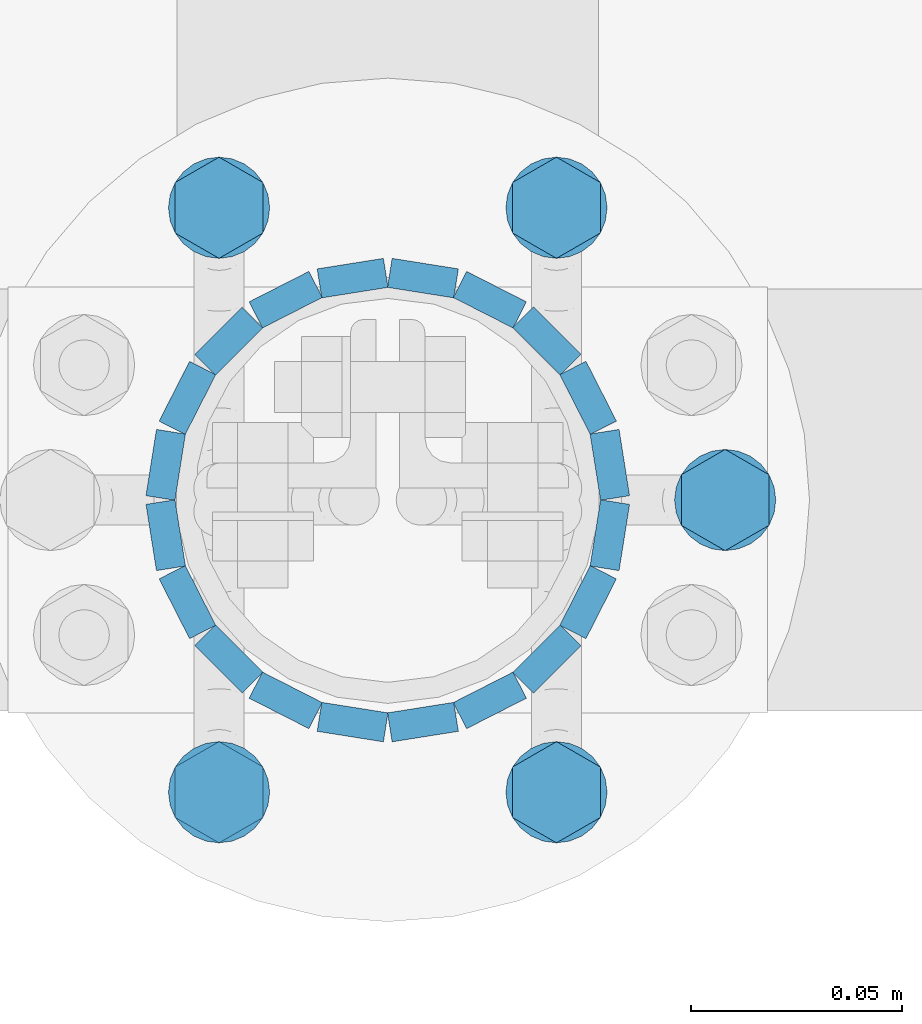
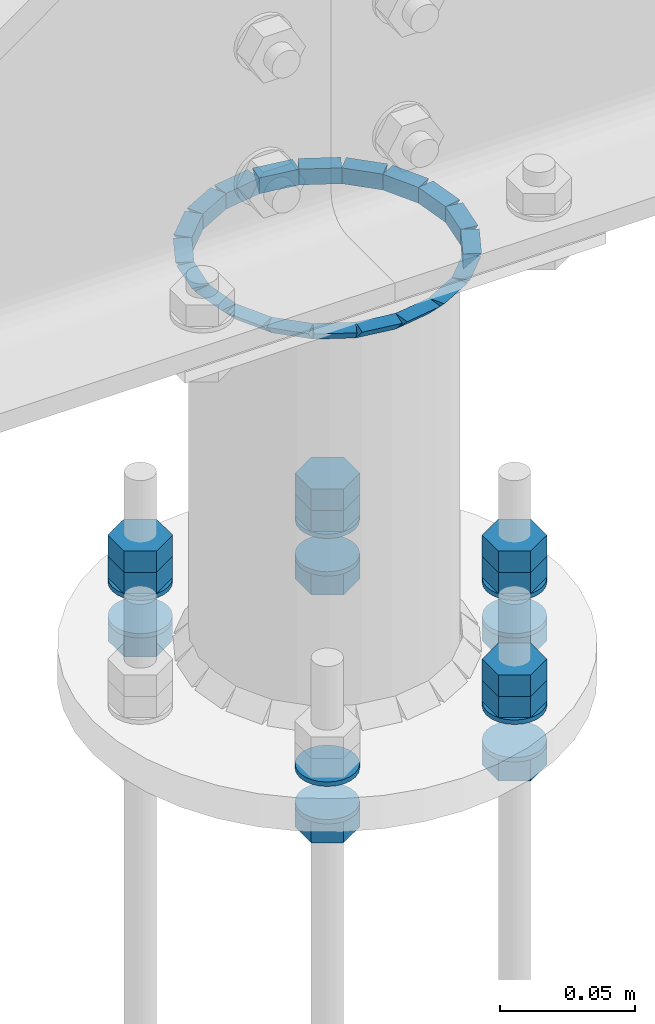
# One storey, part 45 of 84: 27 fasteners, 23 mechanical fasteners.
"""IFC4 building model written with IfcOpenShell, lengths in metres."""

from ifc_helpers import new_model, si_unit, frame, origin_with_axes, place, context, project, spatial, polyline, outline, extrude, type_object, element, save


model = new_model("IFC4")

# Units and contexts
model_context = context("Model", 3, precision=1e-05, world=origin_with_axes())
ifc_project = project(units=[si_unit("LENGTHUNIT", "METRE"), si_unit("AREAUNIT", "SQUARE_METRE"), si_unit("VOLUMEUNIT", "CUBIC_METRE"), si_unit("MASSUNIT", "GRAM", prefix="KILO"), si_unit("TIMEUNIT", "SECOND"), si_unit("PLANEANGLEUNIT", "RADIAN"), si_unit("SOLIDANGLEUNIT", "STERADIAN"), si_unit("THERMODYNAMICTEMPERATUREUNIT", "DEGREE_CELSIUS")], contexts=[model_context])

# Site, building, storey
placement_1 = place(None, origin_with_axes())
site = spatial("IfcSite", under=ifc_project, at=placement_1, Name="Italia", CompositionType="ELEMENT")
building = spatial("IfcBuilding", under=site, at=placement_1, Name="Tettoia", CompositionType="ELEMENT")
storey_placement = place(None, frame((0.0, 0.0, 4.199999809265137), z_axis=(0.0, 0.0, 1.0), x_axis=(1.0, 0.0, 0.0)))
storey = spatial("IfcBuildingStorey", under=building, at=storey_placement, Name="Storey 1", CompositionType="ELEMENT", Elevation=4.199999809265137)

# Mechanical fasteners
mechanical_fastener_type_1 = type_object("IfcMechanicalFastenerType", Name="Collegamento -008_0108", PredefinedType="BOLT")
placement_2 = place(placement_1, origin_with_axes())
mechanical_fastener_1_placement = place(placement_2, origin_with_axes())
element("IfcMechanicalFastener", 1, at=mechanical_fastener_1_placement, inside=storey, type_object=mechanical_fastener_type_1, Name="Collegamento -008_0108", NominalDiameter=0.0119997, context=model_context, shape_type="SweptSolid", body=[
    extrude(outline(polyline([(0.0, 0.0), (-0.0120001, 0.0), (-0.0179996, 0.0103922), (-0.0120001, 0.0207844), (0.0, 0.0207844), (0.00599957, 0.0103922), (0.0, 0.0)])), frame((4.04039, 9.90672, 3.9884), z_axis=(0.0, 0.0, 1.0), x_axis=(0.0, 1.0, 0.0)), (0.0, 0.0, 1.0), 0.00959992),
])
mechanical_fastener_type_2 = type_object("IfcMechanicalFastenerType", Name="Collegamento -008_0108", PredefinedType="BOLT")
mechanical_fastener_2_placement = place(placement_2, origin_with_axes())
element("IfcMechanicalFastener", 2, at=mechanical_fastener_2_placement, inside=storey, type_object=mechanical_fastener_type_2, Name="Collegamento -008_0108", NominalDiameter=0.024, context=model_context, shape_type="SweptSolid", body=[
    extrude(outline(polyline([(0.0, 0.0), (-0.000409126, -0.00310564), (-0.00160789, -0.00600004), (-0.00351524, -0.00848532), (-0.00600052, -0.0103922), (-0.00889397, -0.011591), (-0.0120001, -0.0120001), (-0.0151062, -0.011591), (-0.0179996, -0.0103922), (-0.0204849, -0.00848532), (-0.0223923, -0.00600004), (-0.023591, -0.00310564), (-0.0240002, 0.0), (-0.023591, 0.00310564), (-0.0223923, 0.00600004), (-0.0204849, 0.00848532), (-0.0179996, 0.0103922), (-0.0151062, 0.011591), (-0.0120001, 0.0120001), (-0.00889397, 0.011591), (-0.00600052, 0.0103922), (-0.00351524, 0.00848532), (-0.00160789, 0.00600004), (-0.000409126, 0.00310564), (0.0, 0.0)])), frame((4.03, 9.91272, 4.015), z_axis=(0.0, 0.0, 1.0), x_axis=(0.0, 1.0, 0.0)), (0.0, 0.0, 1.0), 0.00200033),
])
mechanical_fastener_type_3 = type_object("IfcMechanicalFastenerType", Name="Collegamento -008_0108", PredefinedType="BOLT")
mechanical_fastener_3_placement = place(placement_2, origin_with_axes())
element("IfcMechanicalFastener", 3, at=mechanical_fastener_3_placement, inside=storey, type_object=mechanical_fastener_type_3, Name="Collegamento -008_0108", NominalDiameter=0.024, context=model_context, shape_type="SweptSolid", body=[
    extrude(outline(polyline([(0.0, 0.0), (-0.000409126, -0.00310564), (-0.00160789, -0.00600004), (-0.00351524, -0.00848532), (-0.00600052, -0.0103922), (-0.00889397, -0.011591), (-0.0120001, -0.0120001), (-0.0151062, -0.011591), (-0.0179996, -0.0103922), (-0.0204849, -0.00848532), (-0.0223923, -0.00600004), (-0.023591, -0.00310564), (-0.0240002, 0.0), (-0.023591, 0.00310564), (-0.0223923, 0.00600004), (-0.0204849, 0.00848532), (-0.0179996, 0.0103922), (-0.0151062, 0.011591), (-0.0120001, 0.0120001), (-0.00889397, 0.011591), (-0.00600052, 0.0103922), (-0.00351524, 0.00848532), (-0.00160789, 0.00600004), (-0.000409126, 0.00310564), (0.0, 0.0)])), frame((4.03, 9.91272, 3.998), z_axis=(0.0, 0.0, 1.0), x_axis=(0.0, 1.0, 0.0)), (0.0, 0.0, 1.0), 0.00200009),
])
mechanical_fastener_type_4 = type_object("IfcMechanicalFastenerType", Name="Collegamento -008_0108", PredefinedType="BOLT")
mechanical_fastener_4_placement = place(placement_2, origin_with_axes())
element("IfcMechanicalFastener", 4, at=mechanical_fastener_4_placement, inside=storey, type_object=mechanical_fastener_type_4, Name="Collegamento -008_0108", NominalDiameter=0.0119997, context=model_context, shape_type="SweptSolid", body=[
    extrude(outline(polyline([(0.0, 0.0), (-0.0120001, 0.0), (-0.0179996, 0.0103922), (-0.0120001, 0.0207844), (0.0, 0.0207844), (0.00599957, 0.0103922), (0.0, 0.0)])), frame((4.12039, 9.90672, 4.017), z_axis=(0.0, 0.0, 1.0), x_axis=(0.0, 1.0, 0.0)), (0.0, 0.0, 1.0), 0.00959969),
])
mechanical_fastener_type_5 = type_object("IfcMechanicalFastenerType", Name="Collegamento -008_0108", PredefinedType="BOLT")
mechanical_fastener_5_placement = place(placement_2, origin_with_axes())
element("IfcMechanicalFastener", 5, at=mechanical_fastener_5_placement, inside=storey, type_object=mechanical_fastener_type_5, Name="Collegamento -008_0108", NominalDiameter=0.0119997, context=model_context, shape_type="SweptSolid", body=[
    extrude(outline(polyline([(0.0, 0.0), (-0.0120001, 0.0), (-0.0179996, 0.0103922), (-0.0120001, 0.0207844), (0.0, 0.0207844), (0.00599957, 0.0103922), (0.0, 0.0)])), frame((4.12039, 9.90672, 4.0266), z_axis=(0.0, 0.0, 1.0), x_axis=(0.0, 1.0, 0.0)), (0.0, 0.0, 1.0), 0.00960016),
])
mechanical_fastener_type_6 = type_object("IfcMechanicalFastenerType", Name="Collegamento -008_0108", PredefinedType="BOLT")
mechanical_fastener_6_placement = place(placement_2, origin_with_axes())
element("IfcMechanicalFastener", 6, at=mechanical_fastener_6_placement, inside=storey, type_object=mechanical_fastener_type_6, Name="Collegamento -008_0108", NominalDiameter=0.0119997, context=model_context, shape_type="SweptSolid", body=[
    extrude(outline(polyline([(0.0, 0.0), (-0.0120001, 0.0), (-0.0179996, 0.0103922), (-0.0120001, 0.0207844), (0.0, 0.0207844), (0.00599957, 0.0103922), (0.0, 0.0)])), frame((4.12039, 9.90672, 3.9884), z_axis=(0.0, 0.0, 1.0), x_axis=(0.0, 1.0, 0.0)), (0.0, 0.0, 1.0), 0.00959992),
])
mechanical_fastener_type_7 = type_object("IfcMechanicalFastenerType", Name="Collegamento -008_0108", PredefinedType="BOLT")
mechanical_fastener_7_placement = place(placement_2, origin_with_axes())
element("IfcMechanicalFastener", 7, at=mechanical_fastener_7_placement, inside=storey, type_object=mechanical_fastener_type_7, Name="Collegamento -008_0108", NominalDiameter=0.024, context=model_context, shape_type="SweptSolid", body=[
    extrude(outline(polyline([(0.0, 0.0), (-0.000409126, -0.00310564), (-0.00160789, -0.00600004), (-0.00351524, -0.00848532), (-0.00600052, -0.0103922), (-0.00889397, -0.011591), (-0.0120001, -0.0120001), (-0.0151062, -0.011591), (-0.0179996, -0.0103922), (-0.0204849, -0.00848532), (-0.0223923, -0.00600004), (-0.023591, -0.00310564), (-0.0240002, 0.0), (-0.023591, 0.00310564), (-0.0223923, 0.00600004), (-0.0204849, 0.00848532), (-0.0179996, 0.0103922), (-0.0151062, 0.011591), (-0.0120001, 0.0120001), (-0.00889397, 0.011591), (-0.00600052, 0.0103922), (-0.00351524, 0.00848532), (-0.00160789, 0.00600004), (-0.000409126, 0.00310564), (0.0, 0.0)])), frame((4.11, 9.91272, 4.015), z_axis=(0.0, 0.0, 1.0), x_axis=(0.0, 1.0, 0.0)), (0.0, 0.0, 1.0), 0.00200033),
])
mechanical_fastener_type_8 = type_object("IfcMechanicalFastenerType", Name="Collegamento -008_0108", PredefinedType="BOLT")
mechanical_fastener_8_placement = place(placement_2, origin_with_axes())
element("IfcMechanicalFastener", 8, at=mechanical_fastener_8_placement, inside=storey, type_object=mechanical_fastener_type_8, Name="Collegamento -008_0108", NominalDiameter=0.024, context=model_context, shape_type="SweptSolid", body=[
    extrude(outline(polyline([(0.0, 0.0), (-0.000409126, -0.00310564), (-0.00160789, -0.00600004), (-0.00351524, -0.00848532), (-0.00600052, -0.0103922), (-0.00889397, -0.011591), (-0.0120001, -0.0120001), (-0.0151062, -0.011591), (-0.0179996, -0.0103922), (-0.0204849, -0.00848532), (-0.0223923, -0.00600004), (-0.023591, -0.00310564), (-0.0240002, 0.0), (-0.023591, 0.00310564), (-0.0223923, 0.00600004), (-0.0204849, 0.00848532), (-0.0179996, 0.0103922), (-0.0151062, 0.011591), (-0.0120001, 0.0120001), (-0.00889397, 0.011591), (-0.00600052, 0.0103922), (-0.00351524, 0.00848532), (-0.00160789, 0.00600004), (-0.000409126, 0.00310564), (0.0, 0.0)])), frame((4.11, 9.91272, 3.998), z_axis=(0.0, 0.0, 1.0), x_axis=(0.0, 1.0, 0.0)), (0.0, 0.0, 1.0), 0.00200009),
])
mechanical_fastener_type_9 = type_object("IfcMechanicalFastenerType", Name="Collegamento -008_0108", PredefinedType="BOLT")
mechanical_fastener_9_placement = place(placement_2, origin_with_axes())
element("IfcMechanicalFastener", 9, at=mechanical_fastener_9_placement, inside=storey, type_object=mechanical_fastener_type_9, Name="Collegamento -008_0108", NominalDiameter=0.0119991, context=model_context, shape_type="SweptSolid", body=[
    extrude(outline(polyline([(0.0, 0.0), (-0.0119991, 0.0), (-0.0179996, 0.0103922), (-0.0119991, 0.0207844), (0.0, 0.0207844), (0.00600052, 0.0103922), (0.0, 0.0)])), frame((4.16039, 9.976, 4.017), z_axis=(0.0, 0.0, 1.0), x_axis=(0.0, 1.0, 0.0)), (0.0, 0.0, 1.0), 0.00959969),
])
mechanical_fastener_type_10 = type_object("IfcMechanicalFastenerType", Name="Collegamento -008_0108", PredefinedType="BOLT")
mechanical_fastener_10_placement = place(placement_2, origin_with_axes())
element("IfcMechanicalFastener", 10, at=mechanical_fastener_10_placement, inside=storey, type_object=mechanical_fastener_type_10, Name="Collegamento -008_0108", NominalDiameter=0.0119991, context=model_context, shape_type="SweptSolid", body=[
    extrude(outline(polyline([(0.0, 0.0), (-0.0119991, 0.0), (-0.0179996, 0.0103922), (-0.0119991, 0.0207844), (0.0, 0.0207844), (0.00600052, 0.0103922), (0.0, 0.0)])), frame((4.16039, 9.976, 4.0266), z_axis=(0.0, 0.0, 1.0), x_axis=(0.0, 1.0, 0.0)), (0.0, 0.0, 1.0), 0.00960016),
])
mechanical_fastener_type_11 = type_object("IfcMechanicalFastenerType", Name="Collegamento -008_0108", PredefinedType="BOLT")
mechanical_fastener_11_placement = place(placement_2, origin_with_axes())
element("IfcMechanicalFastener", 11, at=mechanical_fastener_11_placement, inside=storey, type_object=mechanical_fastener_type_11, Name="Collegamento -008_0108", NominalDiameter=0.0119991, context=model_context, shape_type="SweptSolid", body=[
    extrude(outline(polyline([(0.0, 0.0), (-0.0119991, 0.0), (-0.0179996, 0.0103922), (-0.0119991, 0.0207844), (0.0, 0.0207844), (0.00600052, 0.0103922), (0.0, 0.0)])), frame((4.16039, 9.976, 3.9884), z_axis=(0.0, 0.0, 1.0), x_axis=(0.0, 1.0, 0.0)), (0.0, 0.0, 1.0), 0.00959992),
])
mechanical_fastener_type_12 = type_object("IfcMechanicalFastenerType", Name="Collegamento -008_0108", PredefinedType="BOLT")
mechanical_fastener_12_placement = place(placement_2, origin_with_axes())
element("IfcMechanicalFastener", 12, at=mechanical_fastener_12_placement, inside=storey, type_object=mechanical_fastener_type_12, Name="Collegamento -008_0108", NominalDiameter=0.024, context=model_context, shape_type="SweptSolid", body=[
    extrude(outline(polyline([(0.0, 0.0), (-0.000409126, -0.00310564), (-0.00160789, -0.00600004), (-0.00351524, -0.00848532), (-0.00600052, -0.0103922), (-0.00889397, -0.011591), (-0.0120001, -0.0120001), (-0.0151062, -0.011591), (-0.0179996, -0.0103922), (-0.0204849, -0.00848532), (-0.0223923, -0.00600004), (-0.023591, -0.00310564), (-0.0240002, 0.0), (-0.023591, 0.00310564), (-0.0223923, 0.00600004), (-0.0204849, 0.00848532), (-0.0179996, 0.0103922), (-0.0151062, 0.011591), (-0.0120001, 0.0120001), (-0.00889397, 0.011591), (-0.00600052, 0.0103922), (-0.00351524, 0.00848532), (-0.00160789, 0.00600004), (-0.000409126, 0.00310564), (0.0, 0.0)])), frame((4.15, 9.982, 4.015), z_axis=(0.0, 0.0, 1.0), x_axis=(0.0, 1.0, 0.0)), (0.0, 0.0, 1.0), 0.00200033),
])
mechanical_fastener_type_13 = type_object("IfcMechanicalFastenerType", Name="Collegamento -008_0108", PredefinedType="BOLT")
mechanical_fastener_13_placement = place(placement_2, origin_with_axes())
element("IfcMechanicalFastener", 13, at=mechanical_fastener_13_placement, inside=storey, type_object=mechanical_fastener_type_13, Name="Collegamento -008_0108", NominalDiameter=0.024, context=model_context, shape_type="SweptSolid", body=[
    extrude(outline(polyline([(0.0, 0.0), (-0.000409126, -0.00310564), (-0.00160789, -0.00600004), (-0.00351524, -0.00848532), (-0.00600052, -0.0103922), (-0.00889397, -0.011591), (-0.0120001, -0.0120001), (-0.0151062, -0.011591), (-0.0179996, -0.0103922), (-0.0204849, -0.00848532), (-0.0223923, -0.00600004), (-0.023591, -0.00310564), (-0.0240002, 0.0), (-0.023591, 0.00310564), (-0.0223923, 0.00600004), (-0.0204849, 0.00848532), (-0.0179996, 0.0103922), (-0.0151062, 0.011591), (-0.0120001, 0.0120001), (-0.00889397, 0.011591), (-0.00600052, 0.0103922), (-0.00351524, 0.00848532), (-0.00160789, 0.00600004), (-0.000409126, 0.00310564), (0.0, 0.0)])), frame((4.15, 9.982, 3.998), z_axis=(0.0, 0.0, 1.0), x_axis=(0.0, 1.0, 0.0)), (0.0, 0.0, 1.0), 0.00200009),
])
mechanical_fastener_type_14 = type_object("IfcMechanicalFastenerType", Name="Collegamento -008_0108", PredefinedType="BOLT")
mechanical_fastener_14_placement = place(placement_2, origin_with_axes())
element("IfcMechanicalFastener", 14, at=mechanical_fastener_14_placement, inside=storey, type_object=mechanical_fastener_type_14, Name="Collegamento -008_0108", NominalDiameter=0.0119997, context=model_context, shape_type="SweptSolid", body=[
    extrude(outline(polyline([(0.0, 0.0), (-0.0120001, 0.0), (-0.0179996, 0.0103922), (-0.0120001, 0.0207844), (0.0, 0.0207844), (0.00599957, 0.0103922), (0.0, 0.0)])), frame((4.12039, 10.0453, 4.017), z_axis=(0.0, 0.0, 1.0), x_axis=(0.0, 1.0, 0.0)), (0.0, 0.0, 1.0), 0.00959969),
])
mechanical_fastener_type_15 = type_object("IfcMechanicalFastenerType", Name="Collegamento -008_0108", PredefinedType="BOLT")
mechanical_fastener_15_placement = place(placement_2, origin_with_axes())
element("IfcMechanicalFastener", 15, at=mechanical_fastener_15_placement, inside=storey, type_object=mechanical_fastener_type_15, Name="Collegamento -008_0108", NominalDiameter=0.0119997, context=model_context, shape_type="SweptSolid", body=[
    extrude(outline(polyline([(0.0, 0.0), (-0.0120001, 0.0), (-0.0179996, 0.0103922), (-0.0120001, 0.0207844), (0.0, 0.0207844), (0.00599957, 0.0103922), (0.0, 0.0)])), frame((4.12039, 10.0453, 4.0266), z_axis=(0.0, 0.0, 1.0), x_axis=(0.0, 1.0, 0.0)), (0.0, 0.0, 1.0), 0.00960016),
])
mechanical_fastener_type_16 = type_object("IfcMechanicalFastenerType", Name="Collegamento -008_0108", PredefinedType="BOLT")
mechanical_fastener_16_placement = place(placement_2, origin_with_axes())
element("IfcMechanicalFastener", 16, at=mechanical_fastener_16_placement, inside=storey, type_object=mechanical_fastener_type_16, Name="Collegamento -008_0108", NominalDiameter=0.0119997, context=model_context, shape_type="SweptSolid", body=[
    extrude(outline(polyline([(0.0, 0.0), (-0.0120001, 0.0), (-0.0179996, 0.0103922), (-0.0120001, 0.0207844), (0.0, 0.0207844), (0.00599957, 0.0103922), (0.0, 0.0)])), frame((4.12039, 10.0453, 3.9884), z_axis=(0.0, 0.0, 1.0), x_axis=(0.0, 1.0, 0.0)), (0.0, 0.0, 1.0), 0.00959992),
])
mechanical_fastener_type_17 = type_object("IfcMechanicalFastenerType", Name="Collegamento -008_0108", PredefinedType="BOLT")
mechanical_fastener_17_placement = place(placement_2, origin_with_axes())
element("IfcMechanicalFastener", 17, at=mechanical_fastener_17_placement, inside=storey, type_object=mechanical_fastener_type_17, Name="Collegamento -008_0108", NominalDiameter=0.024, context=model_context, shape_type="SweptSolid", body=[
    extrude(outline(polyline([(0.0, 0.0), (-0.000409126, -0.00310564), (-0.00160789, -0.00600004), (-0.00351524, -0.00848532), (-0.00600052, -0.0103922), (-0.00889397, -0.011591), (-0.0120001, -0.0120001), (-0.0151062, -0.011591), (-0.0179996, -0.0103922), (-0.0204849, -0.00848532), (-0.0223923, -0.00600004), (-0.023591, -0.00310564), (-0.0240002, 0.0), (-0.023591, 0.00310564), (-0.0223923, 0.00600004), (-0.0204849, 0.00848532), (-0.0179996, 0.0103922), (-0.0151062, 0.011591), (-0.0120001, 0.0120001), (-0.00889397, 0.011591), (-0.00600052, 0.0103922), (-0.00351524, 0.00848532), (-0.00160789, 0.00600004), (-0.000409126, 0.00310564), (0.0, 0.0)])), frame((4.11, 10.0513, 4.015), z_axis=(0.0, 0.0, 1.0), x_axis=(0.0, 1.0, 0.0)), (0.0, 0.0, 1.0), 0.00200033),
])
mechanical_fastener_type_18 = type_object("IfcMechanicalFastenerType", Name="Collegamento -008_0108", PredefinedType="BOLT")
mechanical_fastener_18_placement = place(placement_2, origin_with_axes())
element("IfcMechanicalFastener", 18, at=mechanical_fastener_18_placement, inside=storey, type_object=mechanical_fastener_type_18, Name="Collegamento -008_0108", NominalDiameter=0.024, context=model_context, shape_type="SweptSolid", body=[
    extrude(outline(polyline([(0.0, 0.0), (-0.000409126, -0.00310564), (-0.00160789, -0.00600004), (-0.00351524, -0.00848532), (-0.00600052, -0.0103922), (-0.00889397, -0.011591), (-0.0120001, -0.0120001), (-0.0151062, -0.011591), (-0.0179996, -0.0103922), (-0.0204849, -0.00848532), (-0.0223923, -0.00600004), (-0.023591, -0.00310564), (-0.0240002, 0.0), (-0.023591, 0.00310564), (-0.0223923, 0.00600004), (-0.0204849, 0.00848532), (-0.0179996, 0.0103922), (-0.0151062, 0.011591), (-0.0120001, 0.0120001), (-0.00889397, 0.011591), (-0.00600052, 0.0103922), (-0.00351524, 0.00848532), (-0.00160789, 0.00600004), (-0.000409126, 0.00310564), (0.0, 0.0)])), frame((4.11, 10.0513, 3.998), z_axis=(0.0, 0.0, 1.0), x_axis=(0.0, 1.0, 0.0)), (0.0, 0.0, 1.0), 0.00200009),
])
mechanical_fastener_type_19 = type_object("IfcMechanicalFastenerType", Name="Collegamento -008_0108", PredefinedType="BOLT")
mechanical_fastener_19_placement = place(placement_2, origin_with_axes())
element("IfcMechanicalFastener", 19, at=mechanical_fastener_19_placement, inside=storey, type_object=mechanical_fastener_type_19, Name="Collegamento -008_0108", NominalDiameter=0.0119997, context=model_context, shape_type="SweptSolid", body=[
    extrude(outline(polyline([(0.0, 0.0), (-0.0120001, 0.0), (-0.0179996, 0.0103922), (-0.0120001, 0.0207844), (0.0, 0.0207844), (0.00599957, 0.0103922), (0.0, 0.0)])), frame((4.04039, 10.0453, 4.017), z_axis=(0.0, 0.0, 1.0), x_axis=(0.0, 1.0, 0.0)), (0.0, 0.0, 1.0), 0.00959969),
])
mechanical_fastener_type_20 = type_object("IfcMechanicalFastenerType", Name="Collegamento -008_0108", PredefinedType="BOLT")
mechanical_fastener_20_placement = place(placement_2, origin_with_axes())
element("IfcMechanicalFastener", 20, at=mechanical_fastener_20_placement, inside=storey, type_object=mechanical_fastener_type_20, Name="Collegamento -008_0108", NominalDiameter=0.0119997, context=model_context, shape_type="SweptSolid", body=[
    extrude(outline(polyline([(0.0, 0.0), (-0.0120001, 0.0), (-0.0179996, 0.0103922), (-0.0120001, 0.0207844), (0.0, 0.0207844), (0.00599957, 0.0103922), (0.0, 0.0)])), frame((4.04039, 10.0453, 4.0266), z_axis=(0.0, 0.0, 1.0), x_axis=(0.0, 1.0, 0.0)), (0.0, 0.0, 1.0), 0.00960016),
])
mechanical_fastener_type_21 = type_object("IfcMechanicalFastenerType", Name="Collegamento -008_0108", PredefinedType="BOLT")
mechanical_fastener_21_placement = place(placement_2, origin_with_axes())
element("IfcMechanicalFastener", 21, at=mechanical_fastener_21_placement, inside=storey, type_object=mechanical_fastener_type_21, Name="Collegamento -008_0108", NominalDiameter=0.0119997, context=model_context, shape_type="SweptSolid", body=[
    extrude(outline(polyline([(0.0, 0.0), (-0.0120001, 0.0), (-0.0179996, 0.0103922), (-0.0120001, 0.0207844), (0.0, 0.0207844), (0.00599957, 0.0103922), (0.0, 0.0)])), frame((4.04039, 10.0453, 3.9884), z_axis=(0.0, 0.0, 1.0), x_axis=(0.0, 1.0, 0.0)), (0.0, 0.0, 1.0), 0.00959992),
])
mechanical_fastener_type_22 = type_object("IfcMechanicalFastenerType", Name="Collegamento -008_0108", PredefinedType="BOLT")
mechanical_fastener_22_placement = place(placement_2, origin_with_axes())
element("IfcMechanicalFastener", 22, at=mechanical_fastener_22_placement, inside=storey, type_object=mechanical_fastener_type_22, Name="Collegamento -008_0108", NominalDiameter=0.024, context=model_context, shape_type="SweptSolid", body=[
    extrude(outline(polyline([(0.0, 0.0), (-0.000409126, -0.00310564), (-0.00160789, -0.00600004), (-0.00351524, -0.00848532), (-0.00600052, -0.0103922), (-0.00889397, -0.011591), (-0.0120001, -0.0120001), (-0.0151062, -0.011591), (-0.0179996, -0.0103922), (-0.0204849, -0.00848532), (-0.0223923, -0.00600004), (-0.023591, -0.00310564), (-0.0240002, 0.0), (-0.023591, 0.00310564), (-0.0223923, 0.00600004), (-0.0204849, 0.00848532), (-0.0179996, 0.0103922), (-0.0151062, 0.011591), (-0.0120001, 0.0120001), (-0.00889397, 0.011591), (-0.00600052, 0.0103922), (-0.00351524, 0.00848532), (-0.00160789, 0.00600004), (-0.000409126, 0.00310564), (0.0, 0.0)])), frame((4.03, 10.0513, 4.015), z_axis=(0.0, 0.0, 1.0), x_axis=(0.0, 1.0, 0.0)), (0.0, 0.0, 1.0), 0.00200033),
])
mechanical_fastener_type_23 = type_object("IfcMechanicalFastenerType", Name="Collegamento -008_0108", PredefinedType="BOLT")
mechanical_fastener_23_placement = place(placement_2, origin_with_axes())
element("IfcMechanicalFastener", 23, at=mechanical_fastener_23_placement, inside=storey, type_object=mechanical_fastener_type_23, Name="Collegamento -008_0108", NominalDiameter=0.024, context=model_context, shape_type="SweptSolid", body=[
    extrude(outline(polyline([(0.0, 0.0), (-0.000409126, -0.00310564), (-0.00160789, -0.00600004), (-0.00351524, -0.00848532), (-0.00600052, -0.0103922), (-0.00889397, -0.011591), (-0.0120001, -0.0120001), (-0.0151062, -0.011591), (-0.0179996, -0.0103922), (-0.0204849, -0.00848532), (-0.0223923, -0.00600004), (-0.023591, -0.00310564), (-0.0240002, 0.0), (-0.023591, 0.00310564), (-0.0223923, 0.00600004), (-0.0204849, 0.00848532), (-0.0179996, 0.0103922), (-0.0151062, 0.011591), (-0.0120001, 0.0120001), (-0.00889397, 0.011591), (-0.00600052, 0.0103922), (-0.00351524, 0.00848532), (-0.00160789, 0.00600004), (-0.000409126, 0.00310564), (0.0, 0.0)])), frame((4.03, 10.0513, 3.998), z_axis=(0.0, 0.0, 1.0), x_axis=(0.0, 1.0, 0.0)), (0.0, 0.0, 1.0), 0.00200009),
])

# Fasteners
fastener_type_1 = type_object("IfcFastenerType", Name="Collegamento 0108_-008", PredefinedType="WELD")
fastener_1_placement = place(placement_2, origin_with_axes())
element("IfcFastener", 24, at=fastener_1_placement, inside=storey, type_object=fastener_type_1, Name="Collegamento 0108_-008", context=model_context, shape_type="SweptSolid", body=[
    extrude(outline(polyline([(0.0, 0.0), (-0.00695896, -0.00717354), (-0.00695896, 0.0), (0.0, 0.0)])), frame((4.07103, 10.0273, 4.19505), z_axis=(0.987680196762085, -0.1564861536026, 0.0), x_axis=(0.156486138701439, 0.98768013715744, 0.0)), (0.0, 0.0, 1.0), 0.0159),
])
fastener_type_2 = type_object("IfcFastenerType", Name="Collegamento 0108_-008", PredefinedType="WELD")
fastener_2_placement = place(placement_2, origin_with_axes())
element("IfcFastener", 25, at=fastener_2_placement, inside=storey, type_object=fastener_type_2, Name="Collegamento 0108_-008", context=model_context, shape_type="SweptSolid", body=[
    extrude(outline(polyline([(0.0, 0.0), (-0.00695896, -0.00717354), (-0.00695896, 0.0), (0.0, 0.0)])), frame((4.0887, 10.0242, 4.19505), z_axis=(0.891006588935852, -0.453990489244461, 0.0), x_axis=(0.453990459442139, 0.891006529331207, 0.0)), (0.0, 0.0, 1.0), 0.0158998),
])
fastener_type_3 = type_object("IfcFastenerType", Name="Collegamento 0108_-008", PredefinedType="WELD")
fastener_3_placement = place(placement_2, origin_with_axes())
element("IfcFastener", 26, at=fastener_3_placement, inside=storey, type_object=fastener_type_3, Name="Collegamento 0108_-008", context=model_context, shape_type="SweptSolid", body=[
    extrude(outline(polyline([(0.0, 0.0), (-0.00695801, -0.00717354), (-0.00695801, 0.0), (0.0, 0.0)])), frame((4.10453, 10.0158, 4.19505), z_axis=(0.70710676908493, -0.70710676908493, 0.0), x_axis=(0.70710676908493, 0.70710676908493, 0.0)), (0.0, 0.0, 1.0), 0.0158998),
])
fastener_type_4 = type_object("IfcFastenerType", Name="Collegamento 0108_-008", PredefinedType="WELD")
fastener_4_placement = place(placement_2, origin_with_axes())
element("IfcFastener", 27, at=fastener_4_placement, inside=storey, type_object=fastener_type_4, Name="Collegamento 0108_-008", context=model_context, shape_type="SweptSolid", body=[
    extrude(outline(polyline([(0.0, 0.0), (-0.00695801, -0.00717354), (-0.00695801, 0.0), (0.0, 0.0)])), frame((4.11699, 10.0029, 4.19505), z_axis=(0.453990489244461, -0.891006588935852, 0.0), x_axis=(0.891006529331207, 0.453990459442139, 0.0)), (0.0, 0.0, 1.0), 0.0158998),
])
fastener_type_5 = type_object("IfcFastenerType", Name="Collegamento 0108_-008", PredefinedType="WELD")
fastener_5_placement = place(placement_2, origin_with_axes())
element("IfcFastener", 28, at=fastener_5_placement, inside=storey, type_object=fastener_type_5, Name="Collegamento 0108_-008", context=model_context, shape_type="SweptSolid", body=[
    extrude(outline(polyline([(0.0, 0.0), (-0.00695896, -0.00717354), (-0.00695896, 0.0), (0.0, 0.0)])), frame((4.12484, 9.98674, 4.19505), z_axis=(0.156398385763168, -0.987694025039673, 0.0), x_axis=(0.987694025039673, 0.156398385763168, 0.0)), (0.0, 0.0, 1.0), 0.0158998),
])
fastener_type_6 = type_object("IfcFastenerType", Name="Collegamento 0108_-008", PredefinedType="WELD")
fastener_6_placement = place(placement_2, origin_with_axes())
element("IfcFastener", 29, at=fastener_6_placement, inside=storey, type_object=fastener_type_6, Name="Collegamento 0108_-008", context=model_context, shape_type="SweptSolid", body=[
    extrude(outline(polyline([(0.0, 0.0), (-0.00695729, -0.00717354), (-0.00695729, 0.0), (0.0, 0.0)])), frame((4.12733, 9.96897, 4.19505), z_axis=(-0.156398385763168, -0.987694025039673, 0.0), x_axis=(0.987694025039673, -0.156398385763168, 0.0)), (0.0, 0.0, 1.0), 0.0158998),
])
fastener_type_7 = type_object("IfcFastenerType", Name="Collegamento 0108_-008", PredefinedType="WELD")
fastener_7_placement = place(placement_2, origin_with_axes())
element("IfcFastener", 30, at=fastener_7_placement, inside=storey, type_object=fastener_type_7, Name="Collegamento 0108_-008", context=model_context, shape_type="SweptSolid", body=[
    extrude(outline(polyline([(0.0, 0.0), (-0.00695848, -0.00717354), (-0.00695848, 0.0), (0.0, 0.0)])), frame((4.12421, 9.9513, 4.19505), z_axis=(-0.453990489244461, -0.891006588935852, 0.0), x_axis=(0.891006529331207, -0.453990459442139, 0.0)), (0.0, 0.0, 1.0), 0.0158998),
])
fastener_type_8 = type_object("IfcFastenerType", Name="Collegamento 0108_-008", PredefinedType="WELD")
fastener_8_placement = place(placement_2, origin_with_axes())
element("IfcFastener", 31, at=fastener_8_placement, inside=storey, type_object=fastener_type_8, Name="Collegamento 0108_-008", context=model_context, shape_type="SweptSolid", body=[
    extrude(outline(polyline([(0.0, 0.0), (-0.00695801, -0.00717354), (-0.00695801, 0.0), (0.0, 0.0)])), frame((4.11578, 9.93547, 4.19505), z_axis=(-0.70710676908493, -0.70710676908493, 0.0), x_axis=(0.70710676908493, -0.70710676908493, 0.0)), (0.0, 0.0, 1.0), 0.0158998),
])
fastener_type_9 = type_object("IfcFastenerType", Name="Collegamento 0108_-008", PredefinedType="WELD")
fastener_9_placement = place(placement_2, origin_with_axes())
element("IfcFastener", 32, at=fastener_9_placement, inside=storey, type_object=fastener_type_9, Name="Collegamento 0108_-008", context=model_context, shape_type="SweptSolid", body=[
    extrude(outline(polyline([(0.0, 0.0), (-0.00695801, -0.00717354), (-0.00695801, 0.0), (0.0, 0.0)])), frame((4.10286, 9.92301, 4.19505), z_axis=(-0.891006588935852, -0.453990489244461, 0.0), x_axis=(0.453990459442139, -0.891006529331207, 0.0)), (0.0, 0.0, 1.0), 0.0158998),
])
fastener_type_10 = type_object("IfcFastenerType", Name="Collegamento 0108_-008", PredefinedType="WELD")
fastener_10_placement = place(placement_2, origin_with_axes())
element("IfcFastener", 33, at=fastener_10_placement, inside=storey, type_object=fastener_type_10, Name="Collegamento 0108_-008", context=model_context, shape_type="SweptSolid", body=[
    extrude(outline(polyline([(0.0, 0.0), (-0.00695801, -0.00717354), (-0.00695801, 0.0), (0.0, 0.0)])), frame((4.08674, 9.91516, 4.19505), z_axis=(-0.987680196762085, -0.1564861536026, 0.0), x_axis=(0.156486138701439, -0.98768013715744, 0.0)), (0.0, 0.0, 1.0), 0.0159),
])
fastener_type_11 = type_object("IfcFastenerType", Name="Collegamento 0108_-008", PredefinedType="WELD")
fastener_11_placement = place(placement_2, origin_with_axes())
element("IfcFastener", 34, at=fastener_11_placement, inside=storey, type_object=fastener_type_11, Name="Collegamento 0108_-008", context=model_context, shape_type="SweptSolid", body=[
    extrude(outline(polyline([(0.0, 0.0), (-0.00695896, -0.00717354), (-0.00695896, 0.0), (0.0, 0.0)])), frame((4.06897, 9.91267, 4.19505), z_axis=(-0.987680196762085, 0.1564861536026, 0.0), x_axis=(-0.156486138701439, -0.98768013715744, 0.0)), (0.0, 0.0, 1.0), 0.0159),
])
fastener_type_12 = type_object("IfcFastenerType", Name="Collegamento 0108_-008", PredefinedType="WELD")
fastener_12_placement = place(placement_2, origin_with_axes())
element("IfcFastener", 35, at=fastener_12_placement, inside=storey, type_object=fastener_type_12, Name="Collegamento 0108_-008", context=model_context, shape_type="SweptSolid", body=[
    extrude(outline(polyline([(0.0, 0.0), (-0.00695705, -0.00717354), (-0.00695705, 0.0), (0.0, 0.0)])), frame((4.0513, 9.91579, 4.19505), z_axis=(-0.891006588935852, 0.453990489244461, 0.0), x_axis=(-0.453990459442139, -0.891006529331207, 0.0)), (0.0, 0.0, 1.0), 0.0158998),
])
fastener_type_13 = type_object("IfcFastenerType", Name="Collegamento 0108_-008", PredefinedType="WELD")
fastener_13_placement = place(placement_2, origin_with_axes())
element("IfcFastener", 36, at=fastener_13_placement, inside=storey, type_object=fastener_type_13, Name="Collegamento 0108_-008", context=model_context, shape_type="SweptSolid", body=[
    extrude(outline(polyline([(0.0, 0.0), (-0.00695801, -0.00717354), (-0.00695801, 0.0), (0.0, 0.0)])), frame((4.03547, 9.92422, 4.19505), z_axis=(-0.70710676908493, 0.70710676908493, 0.0), x_axis=(-0.70710676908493, -0.70710676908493, 0.0)), (0.0, 0.0, 1.0), 0.0158998),
])
fastener_type_14 = type_object("IfcFastenerType", Name="Collegamento 0108_-008", PredefinedType="WELD")
fastener_14_placement = place(placement_2, origin_with_axes())
element("IfcFastener", 37, at=fastener_14_placement, inside=storey, type_object=fastener_type_14, Name="Collegamento 0108_-008", context=model_context, shape_type="SweptSolid", body=[
    extrude(outline(polyline([(0.0, 0.0), (-0.00695801, -0.00717354), (-0.00695801, 0.0), (0.0, 0.0)])), frame((4.02301, 9.93714, 4.19505), z_axis=(-0.453990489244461, 0.891006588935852, 0.0), x_axis=(-0.891006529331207, -0.453990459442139, 0.0)), (0.0, 0.0, 1.0), 0.0158998),
])
fastener_type_15 = type_object("IfcFastenerType", Name="Collegamento 0108_-008", PredefinedType="WELD")
fastener_15_placement = place(placement_2, origin_with_axes())
element("IfcFastener", 38, at=fastener_15_placement, inside=storey, type_object=fastener_type_15, Name="Collegamento 0108_-008", context=model_context, shape_type="SweptSolid", body=[
    extrude(outline(polyline([(0.0, 0.0), (-0.00695801, -0.00717354), (-0.00695801, 0.0), (0.0, 0.0)])), frame((4.01516, 9.95327, 4.19505), z_axis=(-0.156398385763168, 0.987694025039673, 0.0), x_axis=(-0.987694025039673, -0.156398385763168, 0.0)), (0.0, 0.0, 1.0), 0.0158998),
])
fastener_type_16 = type_object("IfcFastenerType", Name="Collegamento 0108_-008", PredefinedType="WELD")
fastener_16_placement = place(placement_2, origin_with_axes())
element("IfcFastener", 39, at=fastener_16_placement, inside=storey, type_object=fastener_type_16, Name="Collegamento 0108_-008", context=model_context, shape_type="SweptSolid", body=[
    extrude(outline(polyline([(0.0, 0.0), (-0.00695753, -0.00717354), (-0.00695753, 0.0), (0.0, 0.0)])), frame((4.01267, 9.97103, 4.19505), z_axis=(0.156398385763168, 0.987694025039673, 0.0), x_axis=(-0.987694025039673, 0.156398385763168, 0.0)), (0.0, 0.0, 1.0), 0.0158998),
])
fastener_type_17 = type_object("IfcFastenerType", Name="Collegamento 0108_-008", PredefinedType="WELD")
fastener_17_placement = place(placement_2, origin_with_axes())
element("IfcFastener", 40, at=fastener_17_placement, inside=storey, type_object=fastener_type_17, Name="Collegamento 0108_-008", context=model_context, shape_type="SweptSolid", body=[
    extrude(outline(polyline([(0.0, 0.0), (-0.00695848, -0.00717354), (-0.00695848, 0.0), (0.0, 0.0)])), frame((4.01579, 9.9887, 4.19505), z_axis=(0.453990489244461, 0.891006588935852, 0.0), x_axis=(-0.891006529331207, 0.453990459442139, 0.0)), (0.0, 0.0, 1.0), 0.0158998),
])
fastener_type_18 = type_object("IfcFastenerType", Name="Collegamento 0108_-008", PredefinedType="WELD")
fastener_18_placement = place(placement_2, origin_with_axes())
element("IfcFastener", 41, at=fastener_18_placement, inside=storey, type_object=fastener_type_18, Name="Collegamento 0108_-008", context=model_context, shape_type="SweptSolid", body=[
    extrude(outline(polyline([(0.0, 0.0), (-0.00695801, -0.00717354), (-0.00695801, 0.0), (0.0, 0.0)])), frame((4.02422, 10.0045, 4.19505), z_axis=(0.70710676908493, 0.70710676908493, 0.0), x_axis=(-0.70710676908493, 0.70710676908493, 0.0)), (0.0, 0.0, 1.0), 0.0158998),
])
fastener_type_19 = type_object("IfcFastenerType", Name="Collegamento 0108_-008", PredefinedType="WELD")
fastener_19_placement = place(placement_2, origin_with_axes())
element("IfcFastener", 42, at=fastener_19_placement, inside=storey, type_object=fastener_type_19, Name="Collegamento 0108_-008", context=model_context, shape_type="SweptSolid", body=[
    extrude(outline(polyline([(0.0, 0.0), (-0.00695848, -0.00717354), (-0.00695848, 0.0), (0.0, 0.0)])), frame((4.03714, 10.017, 4.19505), z_axis=(0.891006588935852, 0.453990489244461, 0.0), x_axis=(-0.453990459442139, 0.891006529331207, 0.0)), (0.0, 0.0, 1.0), 0.0158998),
])
fastener_type_20 = type_object("IfcFastenerType", Name="Collegamento 0108_-008", PredefinedType="WELD")
fastener_20_placement = place(placement_2, origin_with_axes())
element("IfcFastener", 43, at=fastener_20_placement, inside=storey, type_object=fastener_type_20, Name="Collegamento 0108_-008", context=model_context, shape_type="SweptSolid", body=[
    extrude(outline(polyline([(0.0, 0.0), (-0.00695801, -0.00717354), (-0.00695801, 0.0), (0.0, 0.0)])), frame((4.05326, 10.0248, 4.19505), z_axis=(0.987680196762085, 0.1564861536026, 0.0), x_axis=(-0.156486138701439, 0.98768013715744, 0.0)), (0.0, 0.0, 1.0), 0.0159),
])
fastener_type_21 = type_object("IfcFastenerType", Name="Collegamento 0108_-008", PredefinedType="WELD")
fastener_21_placement = place(placement_2, origin_with_axes())
element("IfcFastener", 44, at=fastener_21_placement, inside=storey, type_object=fastener_type_21, Name="Collegamento 0108_-008", context=model_context, shape_type="SweptSolid", body=[
    extrude(outline(polyline([(0.0, 0.0), (-0.00695896, -0.00717354), (-0.00695896, 0.0), (0.0, 0.0)])), frame((4.07103, 10.0273, 4.19505), z_axis=(0.987680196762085, -0.1564861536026, 0.0), x_axis=(0.156486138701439, 0.98768013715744, 0.0)), (0.0, 0.0, 1.0), 0.0159),
])
fastener_type_22 = type_object("IfcFastenerType", Name="Collegamento 0108_-008", PredefinedType="WELD")
fastener_22_placement = place(placement_2, origin_with_axes())
element("IfcFastener", 45, at=fastener_22_placement, inside=storey, type_object=fastener_type_22, Name="Collegamento 0108_-008", context=model_context, shape_type="SweptSolid", body=[
    extrude(outline(polyline([(0.0, 0.0), (-0.00695896, -0.00717354), (-0.00695896, 0.0), (0.0, 0.0)])), frame((4.0887, 10.0242, 4.19505), z_axis=(0.891006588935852, -0.453990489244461, 0.0), x_axis=(0.453990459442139, 0.891006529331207, 0.0)), (0.0, 0.0, 1.0), 0.0158998),
])
fastener_type_23 = type_object("IfcFastenerType", Name="Collegamento 0108_-008", PredefinedType="WELD")
fastener_23_placement = place(placement_2, origin_with_axes())
element("IfcFastener", 46, at=fastener_23_placement, inside=storey, type_object=fastener_type_23, Name="Collegamento 0108_-008", context=model_context, shape_type="SweptSolid", body=[
    extrude(outline(polyline([(0.0, 0.0), (-0.00695801, -0.00717354), (-0.00695801, 0.0), (0.0, 0.0)])), frame((4.10453, 10.0158, 4.19505), z_axis=(0.70710676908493, -0.70710676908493, 0.0), x_axis=(0.70710676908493, 0.70710676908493, 0.0)), (0.0, 0.0, 1.0), 0.0158998),
])
fastener_type_24 = type_object("IfcFastenerType", Name="Collegamento 0108_-008", PredefinedType="WELD")
fastener_24_placement = place(placement_2, origin_with_axes())
element("IfcFastener", 47, at=fastener_24_placement, inside=storey, type_object=fastener_type_24, Name="Collegamento 0108_-008", context=model_context, shape_type="SweptSolid", body=[
    extrude(outline(polyline([(0.0, 0.0), (-0.00695801, -0.00717354), (-0.00695801, 0.0), (0.0, 0.0)])), frame((4.11699, 10.0029, 4.19505), z_axis=(0.453990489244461, -0.891006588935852, 0.0), x_axis=(0.891006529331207, 0.453990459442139, 0.0)), (0.0, 0.0, 1.0), 0.0158998),
])
fastener_type_25 = type_object("IfcFastenerType", Name="Collegamento 0108_-008", PredefinedType="WELD")
fastener_25_placement = place(placement_2, origin_with_axes())
element("IfcFastener", 48, at=fastener_25_placement, inside=storey, type_object=fastener_type_25, Name="Collegamento 0108_-008", context=model_context, shape_type="SweptSolid", body=[
    extrude(outline(polyline([(0.0, 0.0), (-0.00695896, -0.00717354), (-0.00695896, 0.0), (0.0, 0.0)])), frame((4.12484, 9.98674, 4.19505), z_axis=(0.156398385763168, -0.987694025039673, 0.0), x_axis=(0.987694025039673, 0.156398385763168, 0.0)), (0.0, 0.0, 1.0), 0.0158998),
])
fastener_type_26 = type_object("IfcFastenerType", Name="Collegamento 0108_-008", PredefinedType="WELD")
fastener_26_placement = place(placement_2, origin_with_axes())
element("IfcFastener", 49, at=fastener_26_placement, inside=storey, type_object=fastener_type_26, Name="Collegamento 0108_-008", context=model_context, shape_type="SweptSolid", body=[
    extrude(outline(polyline([(0.0, 0.0), (-0.00695729, -0.00717354), (-0.00695729, 0.0), (0.0, 0.0)])), frame((4.12733, 9.96897, 4.19505), z_axis=(-0.156398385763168, -0.987694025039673, 0.0), x_axis=(0.987694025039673, -0.156398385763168, 0.0)), (0.0, 0.0, 1.0), 0.0158998),
])
fastener_type_27 = type_object("IfcFastenerType", Name="Collegamento 0108_-008", PredefinedType="WELD")
fastener_27_placement = place(placement_2, origin_with_axes())
element("IfcFastener", 50, at=fastener_27_placement, inside=storey, type_object=fastener_type_27, Name="Collegamento 0108_-008", context=model_context, shape_type="SweptSolid", body=[
    extrude(outline(polyline([(0.0, 0.0), (-0.00695848, -0.00717354), (-0.00695848, 0.0), (0.0, 0.0)])), frame((4.12421, 9.9513, 4.19505), z_axis=(-0.453990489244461, -0.891006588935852, 0.0), x_axis=(0.891006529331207, -0.453990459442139, 0.0)), (0.0, 0.0, 1.0), 0.0158998),
])

save(model, "model.ifc")
